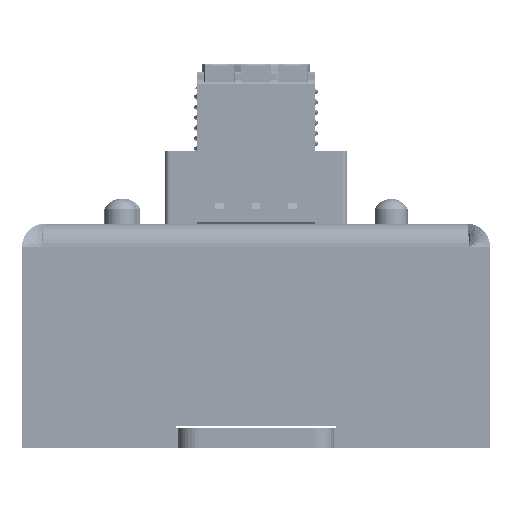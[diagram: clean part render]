
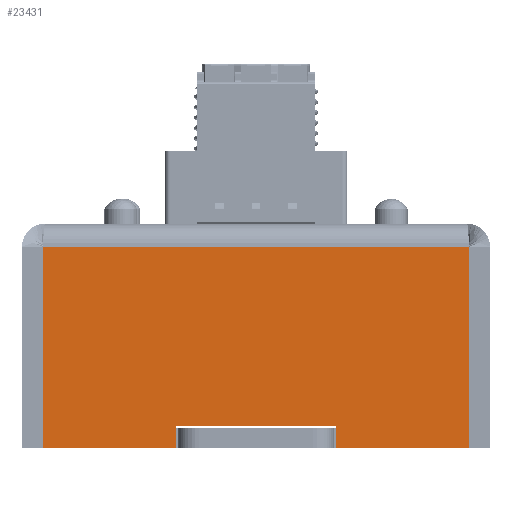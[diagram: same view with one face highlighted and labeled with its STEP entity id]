
A CAD part, front view. The second image highlights one B-rep face of the part: STEP entity #23431.
In plain terms, the highlighted planar face has unit normal (0, -1, 0).
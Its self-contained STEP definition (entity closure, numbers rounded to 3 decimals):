
#461 = VERTEX_POINT ( 'NONE', #25041 ) ;
#647 = CARTESIAN_POINT ( 'NONE',  ( 7.7, -90., -27.8 ) ) ;
#4163 = VERTEX_POINT ( 'NONE', #37125 ) ;
#5123 = CARTESIAN_POINT ( 'NONE',  ( 20.49, -90., -30. ) ) ;
#5169 = VECTOR ( 'NONE', #57604, 1000. ) ;
#5999 = EDGE_CURVE ( 'NONE', #30543, #21689, #48240, .T. ) ;
#6104 = DIRECTION ( 'NONE',  ( -1., 0., 0. ) ) ;
#8176 = DIRECTION ( 'NONE',  ( 0., -1., 0. ) ) ;
#8718 = ORIENTED_EDGE ( 'NONE', *, *, #23900, .T. ) ;
#9371 = EDGE_CURVE ( 'NONE', #4163, #55046, #52551, .T. ) ;
#10153 = EDGE_CURVE ( 'NONE', #4163, #61376, #46170, .T. ) ;
#10985 = VERTEX_POINT ( 'NONE', #54157 ) ;
#11543 = CARTESIAN_POINT ( 'NONE',  ( -7.7, -90., -27.8 ) ) ;
#11611 = ORIENTED_EDGE ( 'NONE', *, *, #65527, .F. ) ;
#12324 = VECTOR ( 'NONE', #34403, 1000. ) ;
#13928 = ORIENTED_EDGE ( 'NONE', *, *, #53355, .T. ) ;
#15103 = DIRECTION ( 'NONE',  ( 0., 0., 1. ) ) ;
#15987 = EDGE_CURVE ( 'NONE', #10985, #44434, #50645, .T. ) ;
#18806 = CARTESIAN_POINT ( 'NONE',  ( 20.49, -90., -30. ) ) ;
#21689 = VERTEX_POINT ( 'NONE', #68164 ) ;
#21716 = DIRECTION ( 'NONE',  ( -1., 0., 0. ) ) ;
#22208 = LINE ( 'NONE', #11543, #5169 ) ;
#22805 = VECTOR ( 'NONE', #6104, 1000. ) ;
#23431 = ADVANCED_FACE ( 'NONE', ( #44452 ), #65544, .T. ) ;
#23641 = DIRECTION ( 'NONE',  ( 0., 0., 1. ) ) ;
#23900 = EDGE_CURVE ( 'NONE', #55046, #30543, #56144, .T. ) ;
#24490 = ORIENTED_EDGE ( 'NONE', *, *, #5999, .T. ) ;
#25041 = CARTESIAN_POINT ( 'NONE',  ( -7.7, -90., -27.8 ) ) ;
#25964 = EDGE_CURVE ( 'NONE', #61376, #461, #47635, .T. ) ;
#28790 = VECTOR ( 'NONE', #35280, 1000. ) ;
#30543 = VERTEX_POINT ( 'NONE', #68126 ) ;
#34403 = DIRECTION ( 'NONE',  ( 1., 0., 0. ) ) ;
#35019 = VECTOR ( 'NONE', #23641, 1000. ) ;
#35280 = DIRECTION ( 'NONE',  ( 0., 0., -1. ) ) ;
#35457 = CARTESIAN_POINT ( 'NONE',  ( -22.5, -90., -30. ) ) ;
#37051 = ORIENTED_EDGE ( 'NONE', *, *, #25964, .F. ) ;
#37125 = CARTESIAN_POINT ( 'NONE',  ( 7.7, -90., -30. ) ) ;
#38548 = VECTOR ( 'NONE', #21716, 1000. ) ;
#40462 = LINE ( 'NONE', #50817, #28790 ) ;
#42022 = CARTESIAN_POINT ( 'NONE',  ( -22.5, -90., -10.6 ) ) ;
#44434 = VERTEX_POINT ( 'NONE', #46809 ) ;
#44452 = FACE_OUTER_BOUND ( 'NONE', #64405, .T. ) ;
#46170 = LINE ( 'NONE', #62434, #65265 ) ;
#46809 = CARTESIAN_POINT ( 'NONE',  ( -7.7, -90., -30. ) ) ;
#47357 = CARTESIAN_POINT ( 'NONE',  ( -22.5, -90., -30. ) ) ;
#47635 = LINE ( 'NONE', #647, #38548 ) ;
#48240 = LINE ( 'NONE', #42022, #22805 ) ;
#50645 = LINE ( 'NONE', #60685, #12324 ) ;
#50817 = CARTESIAN_POINT ( 'NONE',  ( -20.49, -90., -30. ) ) ;
#52551 = LINE ( 'NONE', #47357, #55213 ) ;
#53355 = EDGE_CURVE ( 'NONE', #21689, #10985, #40462, .T. ) ;
#54157 = CARTESIAN_POINT ( 'NONE',  ( -20.49, -90., -30. ) ) ;
#54533 = ORIENTED_EDGE ( 'NONE', *, *, #15987, .T. ) ;
#55046 = VERTEX_POINT ( 'NONE', #5123 ) ;
#55213 = VECTOR ( 'NONE', #67412, 1000. ) ;
#55530 = DIRECTION ( 'NONE',  ( 0., 0., -1. ) ) ;
#56144 = LINE ( 'NONE', #18806, #35019 ) ;
#56384 = ORIENTED_EDGE ( 'NONE', *, *, #9371, .T. ) ;
#57604 = DIRECTION ( 'NONE',  ( 0., 0., -1. ) ) ;
#60685 = CARTESIAN_POINT ( 'NONE',  ( -22.5, -90., -30. ) ) ;
#61376 = VERTEX_POINT ( 'NONE', #62260 ) ;
#62260 = CARTESIAN_POINT ( 'NONE',  ( 7.7, -90., -27.8 ) ) ;
#62434 = CARTESIAN_POINT ( 'NONE',  ( 7.7, -90., -30.2 ) ) ;
#64405 = EDGE_LOOP ( 'NONE', ( #8718, #24490, #13928, #54533, #11611, #37051, #65014, #56384 ) ) ;
#65014 = ORIENTED_EDGE ( 'NONE', *, *, #10153, .F. ) ;
#65265 = VECTOR ( 'NONE', #15103, 1000. ) ;
#65527 = EDGE_CURVE ( 'NONE', #461, #44434, #22208, .T. ) ;
#65544 = PLANE ( 'NONE',  #66984 ) ;
#66984 = AXIS2_PLACEMENT_3D ( 'NONE', #35457, #8176, #55530 ) ;
#67412 = DIRECTION ( 'NONE',  ( 1., 0., 0. ) ) ;
#68126 = CARTESIAN_POINT ( 'NONE',  ( 20.49, -90., -10.6 ) ) ;
#68164 = CARTESIAN_POINT ( 'NONE',  ( -20.49, -90., -10.6 ) ) ;
